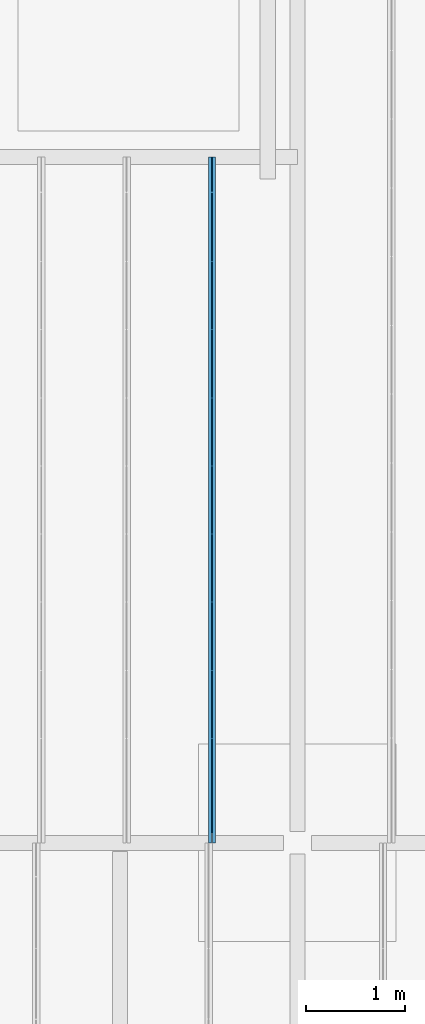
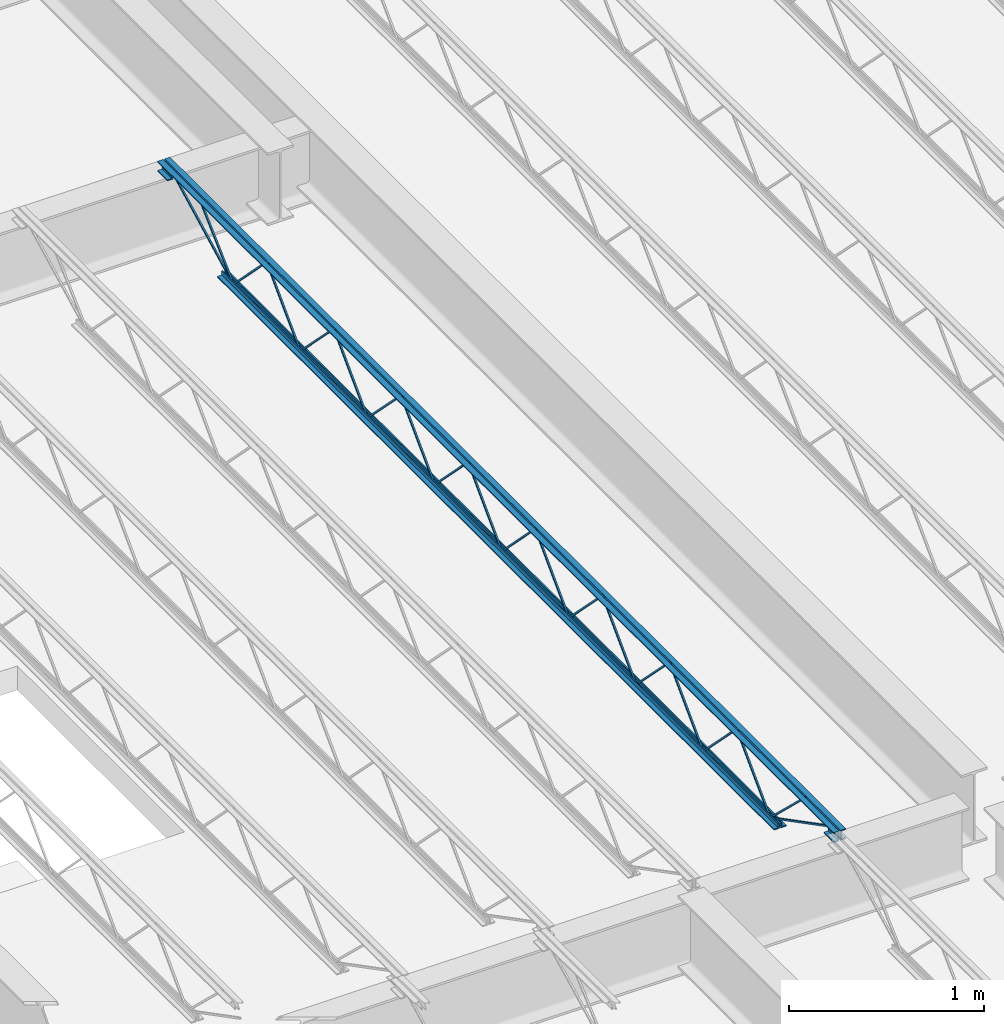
# One storey, part 28 of 75: 1 beam.
"""IFC2X3 building model written with IfcOpenShell, lengths in metres."""

from ifc_helpers import new_model, entity, si_unit, converted_unit, frame, origin, place, context, project, spatial, face_set, surface_model, element, save


model = new_model("IFC2X3")

# Units and contexts
model_context = context("Model", 3, precision=1e-09, world=origin())
plan_context = context("Plan", 3, precision=1e-09, world=origin())
ifc_project = project(units=[si_unit("LENGTHUNIT", "METRE"), si_unit("AREAUNIT", "SQUARE_METRE"), si_unit("VOLUMEUNIT", "CUBIC_METRE"), converted_unit("PLANEANGLEUNIT", "DEGREE", entity("IfcRatioMeasure", 0.01745329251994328), si_unit("PLANEANGLEUNIT", "RADIAN"), dimensions=[0, 0, 0, 0, 0, 0, 0]), si_unit("TIMEUNIT", "SECOND")], contexts=[model_context, plan_context])

# Site, building, storey
site_placement = place(None, origin())
site = spatial("IfcSite", under=ifc_project, at=site_placement, Name="Default", CompositionType="ELEMENT")
building_placement = place(site_placement, origin())
building = spatial("IfcBuilding", under=site, at=building_placement, CompositionType="ELEMENT")
storey_placement = place(building_placement, origin())
storey = spatial("IfcBuildingStorey", under=building, at=storey_placement, Name="First Floor", CompositionType="ELEMENT", Elevation=-3.531500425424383e-13)

# Beam
beam_placement = place(storey_placement, frame((-15.78006249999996, 18.61003029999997, 4.112000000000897), z_axis=(0.0, 0.0, 1.0), x_axis=(-1.0, 0.0, 0.0)))
element("IfcBeam", 1, at=beam_placement, inside=storey, Name="M_K-Series Bar Joist-Rod Web:14K1:14K1", ObjectType="M_K-Series Bar Joist-Rod Web:14K1", context=model_context, shape_type="SurfaceModel", body=[
    surface_model("IfcFaceBasedSurfaceModel", [(-0.03200000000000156, -2.08975000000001, 0.01110000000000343), (-0.04149999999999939, -2.08975000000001, 0.01110000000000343), (-0.04149999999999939, -2.08975000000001, 0.001600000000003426), (-0.03200000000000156, -2.08975000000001, 0.001600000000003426), (-0.04150000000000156, -2.088563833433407, 0.01110000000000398), (-0.03200000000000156, -2.088563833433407, 0.01110000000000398), (-0.0414999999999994, -2.084586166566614, 0.001600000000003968), (-0.04149999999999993, -1.746498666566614, 0.3449000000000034), (-0.04149999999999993, -1.744126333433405, 0.3449000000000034), (-0.04150000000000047, -1.40603883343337, 0.001600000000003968), (-0.04150000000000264, -1.400875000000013, 0.001600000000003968), (-0.04150000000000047, -1.400875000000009, 0.01110000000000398), (-0.04150000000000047, -1.402061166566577, 0.01110000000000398), (-0.04149999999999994, -1.740148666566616, 0.3544000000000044), (-0.04149999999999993, -1.750476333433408, 0.3544000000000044), (-0.0319999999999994, -2.084586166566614, 0.001600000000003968), (-0.03200000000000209, -1.746498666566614, 0.3449000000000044), (-0.0320000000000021, -1.744126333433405, 0.3449000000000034), (-0.03200000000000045, -1.40603883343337, 0.001600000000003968), (-0.03200000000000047, -1.400875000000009, 0.001600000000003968), (-0.03200000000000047, -1.400875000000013, 0.01110000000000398), (-0.03200000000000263, -1.402061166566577, 0.01110000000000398), (-0.0320000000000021, -1.740148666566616, 0.3544000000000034), (-0.03200000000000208, -1.750476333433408, 0.3544000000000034), (-0.03200000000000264, -2.778625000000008, 0.01110000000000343), (-0.04150000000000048, -2.778625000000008, 0.01110000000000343), (-0.04150000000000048, -2.778625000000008, 0.001600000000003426), (-0.03200000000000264, -2.778625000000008, 0.001600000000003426), (-0.04150000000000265, -2.777438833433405, 0.01110000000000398), (-0.03200000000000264, -2.777438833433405, 0.01110000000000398), (-0.04149999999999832, -2.773461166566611, 0.001600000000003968), (-0.04149999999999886, -2.435373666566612, 0.3449000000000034), (-0.04149999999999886, -2.433001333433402, 0.3449000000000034), (-0.04149999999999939, -2.094913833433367, 0.001600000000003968), (-0.04150000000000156, -2.089750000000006, 0.001600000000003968), (-0.04150000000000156, -2.089750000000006, 0.01110000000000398), (-0.04150000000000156, -2.090936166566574, 0.01110000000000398), (-0.04150000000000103, -2.429023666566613, 0.3544000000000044), (-0.04150000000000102, -2.439351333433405, 0.3544000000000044), (-0.03200000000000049, -2.773461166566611, 0.001600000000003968), (-0.03200000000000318, -2.435373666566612, 0.3449000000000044), (-0.03200000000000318, -2.433001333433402, 0.3449000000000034), (-0.03200000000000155, -2.094913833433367, 0.001600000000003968), (-0.03200000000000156, -2.089750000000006, 0.001600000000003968), (-0.03199999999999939, -2.089750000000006, 0.01110000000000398), (-0.03200000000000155, -2.090936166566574, 0.01110000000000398), (-0.03200000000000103, -2.429023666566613, 0.3544000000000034), (-0.03200000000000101, -2.439351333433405, 0.3544000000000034), (-0.03200000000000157, -3.467500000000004, 0.01110000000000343), (-0.04149999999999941, -3.467500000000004, 0.01110000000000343), (-0.04149999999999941, -3.467500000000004, 0.001600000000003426), (-0.03200000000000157, -3.467500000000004, 0.001600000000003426), (-0.04150000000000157, -3.466313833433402, 0.01110000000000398), (-0.03200000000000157, -3.466313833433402, 0.01110000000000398), (-0.04149999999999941, -3.462336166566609, 0.001600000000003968), (-0.04149999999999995, -3.124248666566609, 0.3449000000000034), (-0.04149999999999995, -3.121876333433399, 0.3449000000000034), (-0.04150000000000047, -2.783788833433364, 0.001600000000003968), (-0.04150000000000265, -2.778625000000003, 0.001600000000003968), (-0.04150000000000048, -2.778625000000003, 0.01110000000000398), (-0.04150000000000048, -2.779811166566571, 0.01110000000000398), (-0.04149999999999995, -3.11789866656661, 0.3544000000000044), (-0.04149999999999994, -3.128226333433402, 0.3544000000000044), (-0.03199999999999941, -3.462336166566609, 0.001600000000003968), (-0.0320000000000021, -3.124248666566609, 0.3449000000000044), (-0.03200000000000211, -3.121876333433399, 0.3449000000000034), (-0.03200000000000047, -2.783788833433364, 0.001600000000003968), (-0.03200000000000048, -2.778625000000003, 0.001600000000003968), (-0.03200000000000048, -2.778625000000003, 0.01110000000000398), (-0.03200000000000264, -2.779811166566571, 0.01110000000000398), (-0.03200000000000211, -3.11789866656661, 0.3544000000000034), (-0.0320000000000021, -3.128226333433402, 0.3544000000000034), (-0.03200000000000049, -4.156375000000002, 0.01110000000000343), (-0.04149999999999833, -4.156375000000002, 0.01110000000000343), (-0.04149999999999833, -4.156375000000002, 0.001600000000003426), (-0.03200000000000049, -4.156375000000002, 0.001600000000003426), (-0.0415000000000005, -4.155188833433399, 0.01110000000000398), (-0.03200000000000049, -4.155188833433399, 0.01110000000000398), (-0.04149999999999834, -4.151211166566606, 0.001600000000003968), (-0.04149999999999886, -3.813123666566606, 0.3449000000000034), (-0.04149999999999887, -3.810751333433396, 0.3449000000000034), (-0.0414999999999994, -3.472663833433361, 0.001600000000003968), (-0.04150000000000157, -3.4675, 0.001600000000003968), (-0.04149999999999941, -3.4675, 0.01110000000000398), (-0.04149999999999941, -3.468686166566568, 0.01110000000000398), (-0.04149999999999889, -3.806773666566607, 0.3544000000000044), (-0.04149999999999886, -3.817101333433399, 0.3544000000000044), (-0.03199999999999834, -4.151211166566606, 0.001600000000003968), (-0.03200000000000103, -3.813123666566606, 0.3449000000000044), (-0.03200000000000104, -3.810751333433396, 0.3449000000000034), (-0.03199999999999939, -3.472663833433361, 0.001600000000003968), (-0.0319999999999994, -3.4675, 0.001600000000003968), (-0.0319999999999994, -3.4675, 0.01110000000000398), (-0.03200000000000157, -3.468686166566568, 0.01110000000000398), (-0.03200000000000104, -3.806773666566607, 0.3544000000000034), (-0.03200000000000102, -3.817101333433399, 0.3544000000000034), (-0.03200000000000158, -4.845249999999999, 0.01110000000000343), (-0.04149999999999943, -4.845249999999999, 0.01110000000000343), (-0.04149999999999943, -4.845249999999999, 0.001600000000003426), (-0.03200000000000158, -4.845249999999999, 0.001600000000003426), (-0.04150000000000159, -4.844063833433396, 0.01110000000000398), (-0.03200000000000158, -4.844063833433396, 0.01110000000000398), (-0.04149999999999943, -4.840086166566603, 0.001600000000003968), (-0.04149999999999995, -4.501998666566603, 0.3449000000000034), (-0.04149999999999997, -4.499626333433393, 0.3449000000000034), (-0.04150000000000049, -4.161538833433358, 0.001600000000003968), (-0.0415000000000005, -4.156374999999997, 0.001600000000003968), (-0.0415000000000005, -4.156374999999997, 0.01110000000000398), (-0.0415000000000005, -4.157561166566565, 0.01110000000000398), (-0.04149999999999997, -4.495648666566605, 0.3544000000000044), (-0.04149999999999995, -4.505976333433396, 0.3544000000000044), (-0.03199999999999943, -4.840086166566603, 0.001600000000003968), (-0.03200000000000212, -4.501998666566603, 0.3449000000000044), (-0.03200000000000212, -4.499626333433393, 0.3449000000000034), (-0.03200000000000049, -4.161538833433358, 0.001600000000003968), (-0.03200000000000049, -4.156374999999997, 0.001600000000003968), (-0.03199999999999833, -4.156374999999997, 0.01110000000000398), (-0.03200000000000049, -4.157561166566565, 0.01110000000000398), (-0.03200000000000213, -4.495648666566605, 0.3544000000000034), (-0.03200000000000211, -4.505976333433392, 0.3544000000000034), (-0.03200000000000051, -5.534124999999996, 0.01110000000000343), (-0.04149999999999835, -5.534124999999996, 0.01110000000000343), (-0.04149999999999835, -5.534124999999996, 0.001600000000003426), (-0.03200000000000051, -5.534124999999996, 0.001600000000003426), (-0.04150000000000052, -5.532938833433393, 0.01110000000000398), (-0.03200000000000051, -5.532938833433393, 0.01110000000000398), (-0.04149999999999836, -5.5289611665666, 0.001600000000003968), (-0.04149999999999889, -5.1908736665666, 0.3449000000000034), (-0.04149999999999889, -5.188501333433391, 0.3449000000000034), (-0.04149999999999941, -4.850413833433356, 0.001600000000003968), (-0.04150000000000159, -4.845249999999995, 0.001600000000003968), (-0.04149999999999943, -4.845249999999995, 0.01110000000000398), (-0.04149999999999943, -4.846436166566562, 0.01110000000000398), (-0.04149999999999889, -5.184523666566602, 0.3544000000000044), (-0.04149999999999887, -5.194851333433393, 0.3544000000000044), (-0.03199999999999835, -5.5289611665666, 0.001600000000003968), (-0.03200000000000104, -5.1908736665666, 0.3449000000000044), (-0.03200000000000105, -5.188501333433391, 0.3449000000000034), (-0.03199999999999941, -4.850413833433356, 0.001600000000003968), (-0.03199999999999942, -4.845249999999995, 0.001600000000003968), (-0.03199999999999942, -4.845249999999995, 0.01110000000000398), (-0.03200000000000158, -4.846436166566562, 0.01110000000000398), (-0.03200000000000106, -5.184523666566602, 0.3544000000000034), (-0.03200000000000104, -5.194851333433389, 0.3544000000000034), (-0.0320000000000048, -1.400875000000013, 0.01109999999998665), (-0.04150000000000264, -1.400875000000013, 0.01109999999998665), (-0.04150000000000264, -1.400875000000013, 0.001599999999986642), (-0.0320000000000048, -1.400875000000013, 0.001599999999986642), (-0.04150000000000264, -1.39968883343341, 0.01109999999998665), (-0.03200000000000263, -1.39968883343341, 0.01109999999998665), (-0.04150000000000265, -1.395711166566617, 0.001599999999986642), (-0.04150000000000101, -1.057623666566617, 0.3448999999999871), (-0.04150000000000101, -1.055251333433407, 0.3448999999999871), (-0.04150000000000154, -0.7171638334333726, 0.001599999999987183), (-0.04150000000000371, -0.7120000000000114, 0.001599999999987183), (-0.04150000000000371, -0.7120000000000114, 0.01109999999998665), (-0.04150000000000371, -0.7131861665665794, 0.01109999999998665), (-0.04150000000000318, -1.051273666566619, 0.3543999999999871), (-0.04150000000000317, -1.06160133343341, 0.3543999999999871), (-0.03200000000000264, -1.395711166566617, 0.001599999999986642), (-0.03200000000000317, -1.057623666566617, 0.3448999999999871), (-0.03200000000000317, -1.055251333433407, 0.3448999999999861), (-0.03200000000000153, -0.7171638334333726, 0.001599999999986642), (-0.03200000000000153, -0.7120000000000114, 0.001599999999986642), (-0.03200000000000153, -0.7120000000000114, 0.01109999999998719), (-0.03200000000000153, -0.7131861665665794, 0.01109999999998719), (-0.03200000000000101, -1.051273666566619, 0.3543999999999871), (-0.03200000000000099, -1.06160133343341, 0.3543999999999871), (-0.0320000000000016, -6.222999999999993, 0.01110000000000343), (-0.04149999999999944, -6.222999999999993, 0.01110000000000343), (-0.04149999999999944, -6.222999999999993, 0.001600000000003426), (-0.0320000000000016, -6.222999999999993, 0.001600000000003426), (-0.04150000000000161, -6.221813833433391, 0.01110000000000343), (-0.0320000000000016, -6.221813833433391, 0.01110000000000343), (-0.04149999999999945, -6.217836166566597, 0.001600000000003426), (-0.04149999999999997, -5.879748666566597, 0.3449000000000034), (-0.04149999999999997, -5.877376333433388, 0.3449000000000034), (-0.04149999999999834, -5.539288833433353, 0.001600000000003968), (-0.04150000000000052, -5.534124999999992, 0.001600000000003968), (-0.04150000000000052, -5.534124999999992, 0.01110000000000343), (-0.04150000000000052, -5.53531116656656, 0.01110000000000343), (-0.04149999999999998, -5.873398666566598, 0.3544000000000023), (-0.04149999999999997, -5.883726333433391, 0.3544000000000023), (-0.03199999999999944, -6.217836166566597, 0.001600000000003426), (-0.03200000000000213, -5.879748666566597, 0.3449000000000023), (-0.03200000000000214, -5.877376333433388, 0.3449000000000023), (-0.0320000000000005, -5.539288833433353, 0.001600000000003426), (-0.03200000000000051, -5.534124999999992, 0.001600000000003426), (-0.03199999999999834, -5.534124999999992, 0.01110000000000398), (-0.03200000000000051, -5.53531116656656, 0.01110000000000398), (-0.03200000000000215, -5.873398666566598, 0.3544000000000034), (-0.03200000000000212, -5.883726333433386, 0.3544000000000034), (-0.04150000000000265, 0.0, 0.3559999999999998), (-0.07350000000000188, 0.0, 0.3559999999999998), (-0.07350000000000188, 0.0, 0.349499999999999), (-0.04800000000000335, 0.0, 0.349499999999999), (-0.04800000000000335, 0.0, 0.3239999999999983), (-0.04150000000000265, 0.0, 0.3239999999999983), (-0.03200000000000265, 0.0, 0.3559999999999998), (-0.03200000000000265, 0.0, 0.3239999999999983), (-0.02550000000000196, 0.0, 0.3239999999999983), (-0.02550000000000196, 0.0, 0.349499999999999), (0.0, 0.0, 0.349499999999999), (0.0, 0.0, 0.3559999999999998), (-0.04150000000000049, -6.934999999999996, 0.3559999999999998), (-0.07349999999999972, -6.934999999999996, 0.3559999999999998), (-0.07349999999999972, -6.934999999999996, 0.349499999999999), (-0.04800000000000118, -6.934999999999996, 0.349499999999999), (-0.04800000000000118, -6.934999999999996, 0.3239999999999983), (-0.04150000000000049, -6.934999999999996, 0.3239999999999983), (-0.03200000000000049, -6.934999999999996, 0.3559999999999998), (-0.03200000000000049, -6.934999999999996, 0.3239999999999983), (-0.02549999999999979, -6.934999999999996, 0.3239999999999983), (-0.02549999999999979, -6.934999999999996, 0.349499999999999), (0.0, -6.934999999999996, 0.349499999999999), (0.0, -6.934999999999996, 0.3559999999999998), (-0.03200000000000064, -6.83500000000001, 0.2924999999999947), (0.0, -6.83500000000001, 0.2924999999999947), (0.0, -6.83500000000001, 0.2989999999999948), (-0.02549999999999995, -6.83500000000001, 0.2989999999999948), (-0.02549999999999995, -6.83500000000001, 0.3239999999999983), (-0.03200000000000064, -6.83500000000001, 0.3239999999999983), (-0.07349999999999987, -6.83500000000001, 0.2924999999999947), (-0.04150000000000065, -6.83500000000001, 0.2924999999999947), (-0.04150000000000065, -6.83500000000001, 0.3239999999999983), (-0.04800000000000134, -6.83500000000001, 0.3239999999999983), (-0.04800000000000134, -6.83500000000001, 0.2989999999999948), (-0.07349999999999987, -6.83500000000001, 0.2989999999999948), (-0.03200000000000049, -6.934999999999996, 0.2924999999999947), (0.0, -6.934999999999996, 0.2924999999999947), (0.0, -6.934999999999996, 0.2989999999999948), (-0.02549999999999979, -6.934999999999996, 0.2989999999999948), (-0.07349999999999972, -6.934999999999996, 0.2924999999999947), (-0.04150000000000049, -6.934999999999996, 0.2924999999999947), (-0.04800000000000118, -6.934999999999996, 0.2989999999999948), (-0.07349999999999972, -6.934999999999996, 0.2989999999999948), (-0.04150000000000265, 0.0, 0.2924999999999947), (-0.04800000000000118, 0.0, 0.3239999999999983), (-0.04800000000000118, 0.0, 0.2989999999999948), (-0.07350000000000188, 0.0, 0.2989999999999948), (-0.07350000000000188, 0.0, 0.2924999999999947), (-0.03200000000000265, 0.0, 0.2924999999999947), (0.0, 0.0, 0.2924999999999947), (0.0, 0.0, 0.2989999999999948), (-0.02550000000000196, 0.0, 0.2989999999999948), (-0.0415000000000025, -0.0999999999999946, 0.2924999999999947), (-0.0415000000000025, -0.0999999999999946, 0.3239999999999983), (-0.04800000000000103, -0.0999999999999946, 0.3239999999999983), (-0.04800000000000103, -0.0999999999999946, 0.2989999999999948), (-0.07350000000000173, -0.0999999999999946, 0.2989999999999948), (-0.07350000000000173, -0.0999999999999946, 0.2924999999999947), (-0.03200000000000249, -0.0999999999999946, 0.2924999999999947), (0.0, -0.0999999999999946, 0.2924999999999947), (0.0, -0.0999999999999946, 0.2989999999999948), (-0.02550000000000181, -0.0999999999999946, 0.2989999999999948), (-0.02550000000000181, -0.0999999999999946, 0.3239999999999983), (-0.03200000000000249, -0.0999999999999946, 0.3239999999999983), (-0.0415000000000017, -0.6119999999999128, 0.0), (-0.0415000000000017, -0.6119999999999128, 0.03199999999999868), (-0.04800000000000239, -0.6119999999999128, 0.03199999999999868), (-0.04800000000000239, -0.6119999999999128, 0.006499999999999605), (-0.07350000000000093, -0.6119999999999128, 0.006499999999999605), (-0.07350000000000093, -0.6119999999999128, 0.0), (-0.03200000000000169, -0.6119999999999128, 0.0), (0.0, -0.6119999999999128, 0.0), (0.0, -0.6119999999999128, 0.006499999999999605), (-0.02550000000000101, -0.6119999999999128, 0.006499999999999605), (-0.02550000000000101, -0.6119999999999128, 0.03199999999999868), (-0.03200000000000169, -0.6119999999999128, 0.03199999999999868), (-0.04150000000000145, -6.322999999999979, 0.0), (-0.04150000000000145, -6.322999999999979, 0.03199999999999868), (-0.04800000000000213, -6.322999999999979, 0.03199999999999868), (-0.04800000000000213, -6.322999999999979, 0.006499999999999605), (-0.07350000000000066, -6.322999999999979, 0.006499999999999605), (-0.07350000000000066, -6.322999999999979, 0.0), (-0.03200000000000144, -6.322999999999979, 0.0), (0.0, -6.322999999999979, 0.0), (0.0, -6.322999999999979, 0.006499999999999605), (-0.02550000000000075, -6.322999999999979, 0.006499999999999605), (-0.02550000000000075, -6.322999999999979, 0.03199999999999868), (-0.03200000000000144, -6.322999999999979, 0.03199999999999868), (-0.03199999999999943, -6.220811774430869, 0.01056594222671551), (-0.04149999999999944, -6.220811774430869, 0.01056594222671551), (-0.04149999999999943, -6.225188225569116, 0.002134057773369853), (-0.03200000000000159, -6.225188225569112, 0.002134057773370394), (-0.03199999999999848, -6.83384071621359, 0.3287499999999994), (-0.03200000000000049, -6.934999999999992, 0.3287499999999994), (-0.03200000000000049, -6.934999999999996, 0.3192499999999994), (-0.03200000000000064, -6.836159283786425, 0.3192499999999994), (-0.04149999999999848, -6.836159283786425, 0.3192499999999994), (-0.04149999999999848, -6.83384071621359, 0.3287499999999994), (-0.04149999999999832, -6.934999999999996, 0.3287499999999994), (-0.04150000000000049, -6.934999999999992, 0.3192499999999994), (-0.03200000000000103, -6.587394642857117, 0.341700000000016), (-0.04149999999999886, -6.587394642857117, 0.341700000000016), (-0.04149999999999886, -6.587394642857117, 0.332200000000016), (-0.03200000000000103, -6.587394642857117, 0.332200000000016), (-0.04150000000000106, -6.572812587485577, 0.341700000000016), (-0.03200000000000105, -6.572812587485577, 0.341700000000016), (-0.04149999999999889, -6.576576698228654, 0.332200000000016), (-0.04149999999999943, -6.226253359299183, 0.002889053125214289), (-0.04149999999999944, -6.219746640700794, 0.009810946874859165), (-0.03199999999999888, -6.576576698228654, 0.332200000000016), (-0.03200000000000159, -6.226253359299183, 0.002889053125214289), (-0.03199999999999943, -6.219746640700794, 0.009810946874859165), (-0.0320000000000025, -0.09781177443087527, 0.3197840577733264), (-0.03200000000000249, -0.1021882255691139, 0.3282159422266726), (-0.04150000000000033, -0.1021882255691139, 0.3282159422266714), (-0.04150000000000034, -0.09781177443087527, 0.3197840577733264), (-0.03200000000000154, -0.7098117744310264, 0.002134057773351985), (-0.03200000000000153, -0.7141882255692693, 0.01056594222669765), (-0.04149999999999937, -0.7141882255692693, 0.01056594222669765), (-0.04149999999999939, -0.7098117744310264, 0.002134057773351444), (-0.03199999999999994, -0.3497651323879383, 0.3462172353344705), (-0.0320000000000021, -0.3563312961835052, 0.3530827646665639), (-0.0415000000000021, -0.3563312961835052, 0.3530827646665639), (-0.04149999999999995, -0.3497651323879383, 0.3462172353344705), (-0.03199999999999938, -0.7087169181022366, 0.00291723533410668), (-0.03200000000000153, -0.7152830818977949, 0.009782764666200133), (-0.04150000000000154, -0.7152830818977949, 0.009782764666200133), (-0.04149999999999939, -0.7087169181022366, 0.00291723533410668)], [face_set([[[0, 1, 2, 3]], [[1, 4, 5, 0]], [[2, 6, 7, 8, 9, 10, 11, 12, 13, 14, 4, 1]], [[3, 2, 6, 15]], [[0, 3, 15, 16, 17, 18, 19, 20, 21, 22, 23, 5]], [[4, 5, 23, 14]], [[15, 16, 7, 6]], [[14, 13, 22, 23]], [[16, 7, 8, 17]], [[13, 12, 21, 22]], [[17, 8, 9, 18]], [[20, 11, 10, 19]], [[12, 11, 20, 21]], [[18, 9, 10, 19]]]), face_set([[[24, 25, 26, 27]], [[25, 28, 29, 24]], [[26, 30, 31, 32, 33, 34, 35, 36, 37, 38, 28, 25]], [[27, 26, 30, 39]], [[24, 27, 39, 40, 41, 42, 43, 44, 45, 46, 47, 29]], [[28, 29, 47, 38]], [[39, 40, 31, 30]], [[38, 37, 46, 47]], [[40, 31, 32, 41]], [[37, 36, 45, 46]], [[41, 32, 33, 42]], [[44, 35, 34, 43]], [[36, 35, 44, 45]], [[42, 33, 34, 43]]]), face_set([[[48, 49, 50, 51]], [[49, 52, 53, 48]], [[50, 54, 55, 56, 57, 58, 59, 60, 61, 62, 52, 49]], [[51, 50, 54, 63]], [[48, 51, 63, 64, 65, 66, 67, 68, 69, 70, 71, 53]], [[52, 53, 71, 62]], [[63, 64, 55, 54]], [[62, 61, 70, 71]], [[64, 55, 56, 65]], [[61, 60, 69, 70]], [[65, 56, 57, 66]], [[68, 59, 58, 67]], [[60, 59, 68, 69]], [[66, 57, 58, 67]]]), face_set([[[72, 73, 74, 75]], [[73, 76, 77, 72]], [[74, 78, 79, 80, 81, 82, 83, 84, 85, 86, 76, 73]], [[75, 74, 78, 87]], [[72, 75, 87, 88, 89, 90, 91, 92, 93, 94, 95, 77]], [[76, 77, 95, 86]], [[87, 88, 79, 78]], [[86, 85, 94, 95]], [[88, 79, 80, 89]], [[85, 84, 93, 94]], [[89, 80, 81, 90]], [[92, 83, 82, 91]], [[84, 83, 92, 93]], [[90, 81, 82, 91]]]), face_set([[[96, 97, 98, 99]], [[97, 100, 101, 96]], [[98, 102, 103, 104, 105, 106, 107, 108, 109, 110, 100, 97]], [[99, 98, 102, 111]], [[96, 99, 111, 112, 113, 114, 115, 116, 117, 118, 119, 101]], [[100, 101, 119, 110]], [[111, 112, 103, 102]], [[110, 109, 118, 119]], [[112, 103, 104, 113]], [[109, 108, 117, 118]], [[113, 104, 105, 114]], [[116, 107, 106, 115]], [[108, 107, 116, 117]], [[114, 105, 106, 115]]]), face_set([[[120, 121, 122, 123]], [[121, 124, 125, 120]], [[122, 126, 127, 128, 129, 130, 131, 132, 133, 134, 124, 121]], [[123, 122, 126, 135]], [[120, 123, 135, 136, 137, 138, 139, 140, 141, 142, 143, 125]], [[124, 125, 143, 134]], [[135, 136, 127, 126]], [[134, 133, 142, 143]], [[136, 127, 128, 137]], [[133, 132, 141, 142]], [[137, 128, 129, 138]], [[140, 131, 130, 139]], [[132, 131, 140, 141]], [[138, 129, 130, 139]]]), face_set([[[144, 145, 146, 147]], [[145, 148, 149, 144]], [[146, 150, 151, 152, 153, 154, 155, 156, 157, 158, 148, 145]], [[147, 146, 150, 159]], [[144, 147, 159, 160, 161, 162, 163, 164, 165, 166, 167, 149]], [[148, 149, 167, 158]], [[159, 160, 151, 150]], [[158, 157, 166, 167]], [[160, 151, 152, 161]], [[157, 156, 165, 166]], [[161, 152, 153, 162]], [[164, 155, 154, 163]], [[156, 155, 164, 165]], [[162, 153, 154, 163]]]), face_set([[[168, 169, 170, 171]], [[169, 172, 173, 168]], [[170, 174, 175, 176, 177, 178, 179, 180, 181, 182, 172, 169]], [[171, 170, 174, 183]], [[168, 171, 183, 184, 185, 186, 187, 188, 189, 190, 191, 173]], [[172, 173, 191, 182]], [[183, 184, 175, 174]], [[182, 181, 190, 191]], [[184, 175, 176, 185]], [[181, 180, 189, 190]], [[185, 176, 177, 186]], [[188, 179, 178, 187]], [[180, 179, 188, 189]], [[186, 177, 178, 187]]]), face_set([[[192, 193, 194, 195, 196, 197]], [[198, 199, 200, 201, 202, 203]], [[204, 205, 206, 207, 208, 209]], [[210, 211, 212, 213, 214, 215]], [[197, 192, 204, 209]], [[196, 197, 209, 208]], [[195, 207, 208, 196]], [[194, 195, 207, 206]], [[193, 205, 206, 194]], [[192, 204, 205, 193]], [[203, 215, 210, 198]], [[202, 203, 215, 214]], [[201, 202, 214, 213]], [[200, 201, 213, 212]], [[199, 200, 212, 211]], [[198, 210, 211, 199]]]), face_set([[[216, 217, 218, 219, 220, 221]], [[222, 223, 224, 225, 226, 227]], [[228, 229, 230, 231, 212, 211]], [[232, 233, 209, 208, 234, 235]], [[221, 211, 228, 216]], [[220, 212, 211, 221]], [[219, 220, 212, 231]], [[218, 230, 231, 219]], [[217, 218, 230, 229]], [[216, 217, 229, 228]], [[227, 235, 232, 222]], [[226, 234, 235, 227]], [[225, 208, 234, 226]], [[224, 209, 208, 225]], [[223, 224, 209, 233]], [[222, 223, 233, 232]]]), face_set([[[236, 197, 237, 238, 239, 240]], [[241, 242, 243, 244, 200, 199]], [[245, 246, 247, 248, 249, 250]], [[251, 252, 253, 254, 255, 256]], [[240, 236, 245, 250]], [[239, 249, 250, 240]], [[238, 248, 249, 239]], [[237, 247, 248, 238]], [[197, 246, 247, 237]], [[236, 197, 246, 245]], [[199, 256, 251, 241]], [[200, 255, 256, 199]], [[244, 200, 255, 254]], [[243, 253, 254, 244]], [[242, 243, 253, 252]], [[241, 242, 252, 251]]]), face_set([[[257, 258, 259, 260, 261, 262]], [[263, 264, 265, 266, 267, 268]], [[269, 270, 271, 272, 273, 274]], [[275, 276, 277, 278, 279, 280]], [[262, 257, 269, 274]], [[261, 273, 274, 262]], [[260, 272, 273, 261]], [[259, 271, 272, 260]], [[258, 270, 271, 259]], [[257, 258, 270, 269]], [[268, 280, 275, 263]], [[267, 279, 280, 268]], [[266, 267, 279, 278]], [[265, 277, 278, 266]], [[264, 265, 277, 276]], [[263, 264, 276, 275]]]), face_set([[[281, 282, 283, 284]], [[284, 281, 285, 286, 287, 288]], [[283, 284, 288, 289]], [[282, 290, 291, 292, 289, 283]], [[281, 285, 290, 282]], [[286, 291, 292, 287]], [[289, 288, 287, 292]], [[285, 286, 291, 290]]]), face_set([[[293, 294, 295, 296]], [[294, 297, 298, 293]], [[295, 299, 300, 301, 297, 294]], [[296, 295, 299, 302]], [[293, 296, 302, 303, 304, 298]], [[304, 301, 300, 303]], [[297, 301, 304, 298]], [[302, 299, 300, 303]]]), face_set([[[305, 306, 307, 308]], [[309, 310, 311, 312]], [[308, 312, 309, 305]], [[307, 311, 312, 308]], [[306, 307, 311, 310]], [[305, 306, 310, 309]]]), face_set([[[313, 314, 315, 316]], [[317, 318, 319, 320]], [[316, 320, 317, 313]], [[315, 319, 320, 316]], [[314, 315, 319, 318]], [[313, 314, 318, 317]]])]),
])

save(model, "model.ifc")
